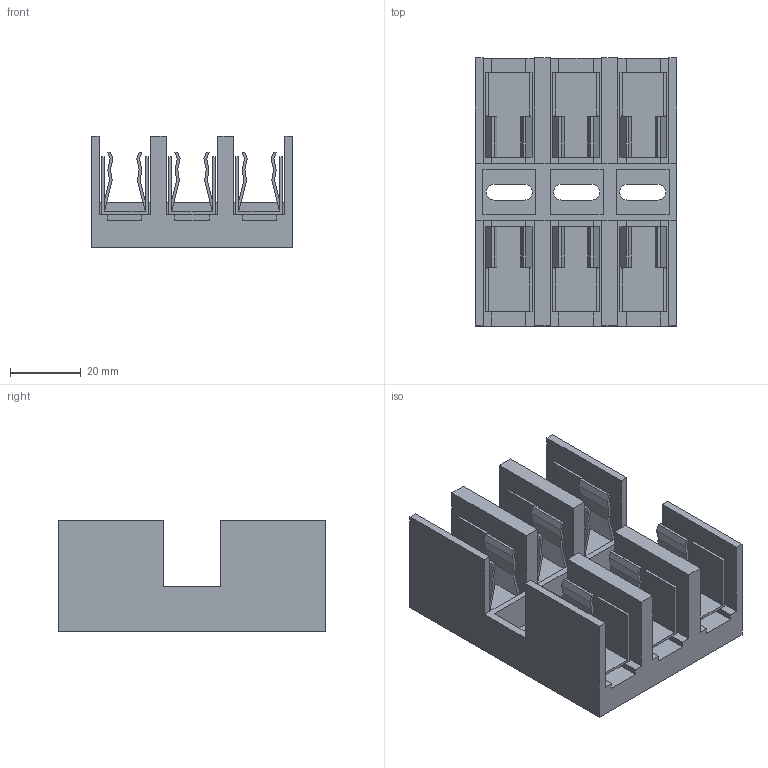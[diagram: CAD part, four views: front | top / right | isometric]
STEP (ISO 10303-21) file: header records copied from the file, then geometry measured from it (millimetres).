
FILE_DESCRIPTION(/* description */ (''),/* implementation_level */ '2;1');
FILE_NAME(/* name */ 'R:\Temp\J. Narvaez\IAN DRAWINGS\002 - Sensors\018 - MCS-VOLTAGE-3PH\MCS-FUSE-3PH-3D.stp',/* time_stamp */ '2022-11-14T09:58:39-05:00',/* author */ ('mjeter'),/* organization */ ('unknown'),/* preprocessor_version */ 'ST-DEVELOPER v19',/* originating_system */ 'Autodesk Inventor 2023',/* authorisation */ '');
FILE_SCHEMA (('AUTOMOTIVE_DESIGN { 1 0 10303 214 3 1 1 }'));
Length unit declared in the file: inch
Products named in the file (1): MCS-FUSE-3PH-3D
Bounding box: 56.85 x 75.56 x 31.42 mm (x, y, z)
Volume: 56639.9 mm3; surface area: 39088.8 mm2
Topology: 7 solids, 7 shells, 289 faces, 792 edges, 520 vertices
Faces by surface type: plane 283, cylinder 6
Entity records: 9015 total; most frequent: CARTESIAN_POINT 1602, ORIENTED_EDGE 1584, DIRECTION 1384, EDGE_CURVE 792, LINE 780, VECTOR 780, VERTEX_POINT 520, AXIS2_PLACEMENT_3D 302
